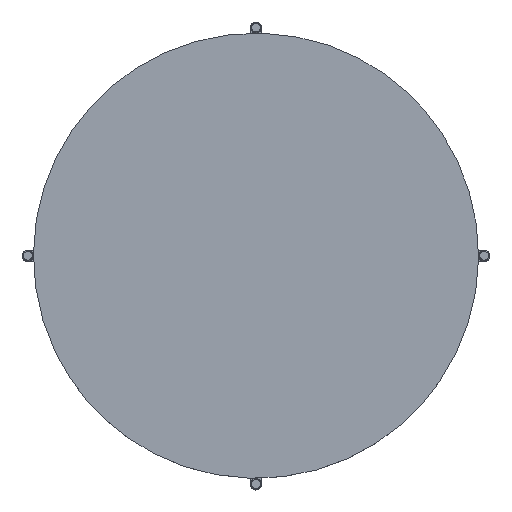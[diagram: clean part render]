
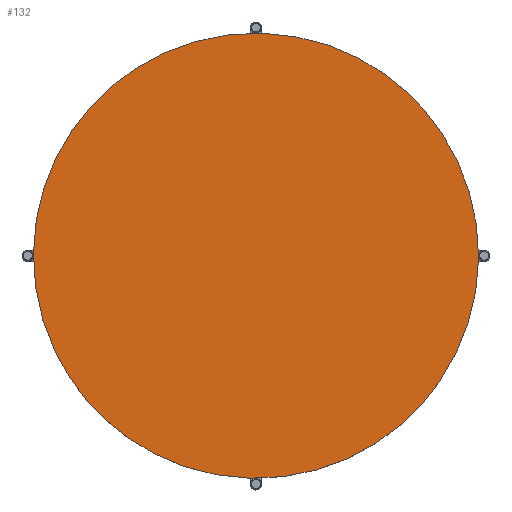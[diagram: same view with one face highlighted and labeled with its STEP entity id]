
A CAD part, top view. The second image highlights one B-rep face of the part: STEP entity #132.
In plain terms, the highlighted planar face has unit normal (0, 0, 1).
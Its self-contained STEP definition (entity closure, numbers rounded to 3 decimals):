
#132=ADVANCED_FACE('',(#180),#674,.T.);
#180=FACE_OUTER_BOUND('',#228,.T.);
#228=EDGE_LOOP('',(#396,#397));
#396=ORIENTED_EDGE('',*,*,#484,.T.);
#397=ORIENTED_EDGE('',*,*,#487,.T.);
#484=EDGE_CURVE('',#624,#626,#526,.T.);
#487=EDGE_CURVE('',#626,#624,#529,.T.);
#526=(
BOUNDED_CURVE()
B_SPLINE_CURVE(2,(#1345,#1346,#1347,#1348,#1349),.UNSPECIFIED.,.F.,.F.)
B_SPLINE_CURVE_WITH_KNOTS((3,2,3),(0.,62.832,125.664),
 .UNSPECIFIED.)
CURVE()
GEOMETRIC_REPRESENTATION_ITEM()
RATIONAL_B_SPLINE_CURVE((1.,0.707,1.,0.707,1.))
REPRESENTATION_ITEM('')
);
#529=(
BOUNDED_CURVE()
B_SPLINE_CURVE(2,(#1357,#1358,#1359,#1360,#1361),.UNSPECIFIED.,.F.,.F.)
B_SPLINE_CURVE_WITH_KNOTS((3,2,3),(125.664,188.496,251.327),
 .UNSPECIFIED.)
CURVE()
GEOMETRIC_REPRESENTATION_ITEM()
RATIONAL_B_SPLINE_CURVE((1.,0.707,1.,0.707,1.))
REPRESENTATION_ITEM('')
);
#624=VERTEX_POINT('',#1335);
#626=VERTEX_POINT('',#1337);
#674=PLANE('',#716);
#716=AXIS2_PLACEMENT_3D('',#1323,#742,$);
#742=DIRECTION('',(0.,0.,1.));
#1323=CARTESIAN_POINT('',(5733.865,-707.107,268.2));
#1335=CARTESIAN_POINT('',(6005.909,293.245,268.2));
#1337=CARTESIAN_POINT('',(5461.822,-293.245,268.2));
#1345=CARTESIAN_POINT('',(6005.909,293.245,268.2));
#1346=CARTESIAN_POINT('',(5712.664,565.288,268.2));
#1347=CARTESIAN_POINT('',(5440.621,272.043,268.2));
#1348=CARTESIAN_POINT('',(5168.577,-21.201,268.2));
#1349=CARTESIAN_POINT('',(5461.822,-293.245,268.2));
#1357=CARTESIAN_POINT('',(5461.822,-293.245,268.2));
#1358=CARTESIAN_POINT('',(5755.066,-565.288,268.2));
#1359=CARTESIAN_POINT('',(6027.11,-272.043,268.2));
#1360=CARTESIAN_POINT('',(6299.153,21.201,268.2));
#1361=CARTESIAN_POINT('',(6005.909,293.245,268.2));
